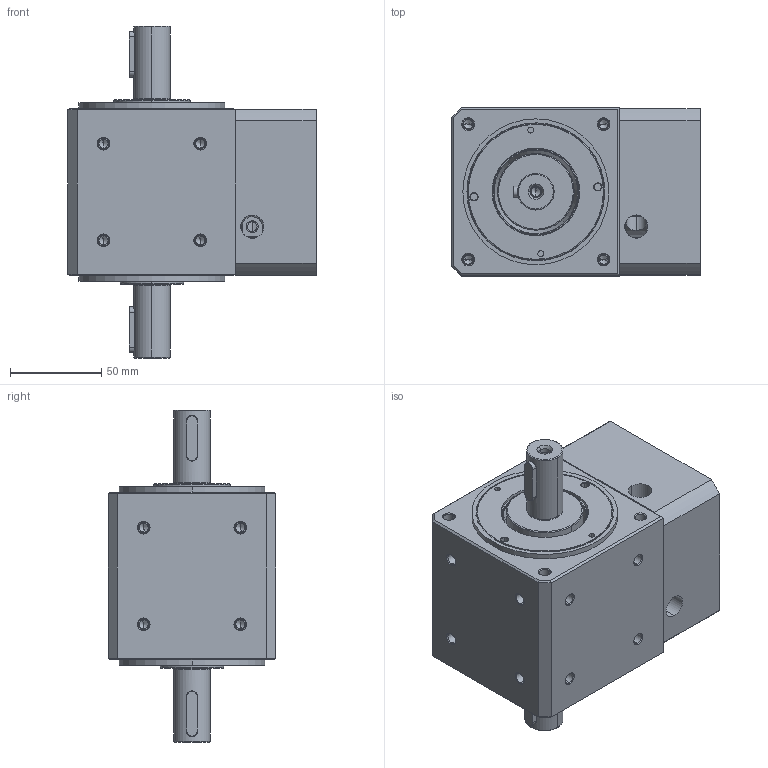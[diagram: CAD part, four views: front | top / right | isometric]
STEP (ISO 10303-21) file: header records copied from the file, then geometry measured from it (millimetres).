
FILE_DESCRIPTION (( 'STEP AP203' ), '1' );
FILE_NAME ('WS90DSF-2-19-70-90-M6.STEP', '2012-12-13T03:21:39', ( 'user' ), ( 'SYNNEX' ), 'SwSTEP 2.0', 'SolidWorks 2008', '' );
FILE_SCHEMA (( 'CONFIG_CONTROL_DESIGN' ));
Length unit declared in the file: millimetre
Products named in the file (1): WS90DSF-2-19-70-90-M6
Bounding box: 136 x 92 x 182 mm (x, y, z)
Volume: 875062.2 mm3; surface area: 204934.3 mm2
Topology: 12 solids, 12 shells, 946 faces, 2285 edges, 1382 vertices
Faces by surface type: cylinder 305, cone 265, plane 182, sphere 112, torus 82
Entity records: 32668 total; most frequent: CARTESIAN_POINT 10210, DIRECTION 5037, ORIENTED_EDGE 4450, EDGE_CURVE 2225, AXIS2_PLACEMENT_3D 2167, VERTEX_POINT 1382, CIRCLE 1220, EDGE_LOOP 1137
